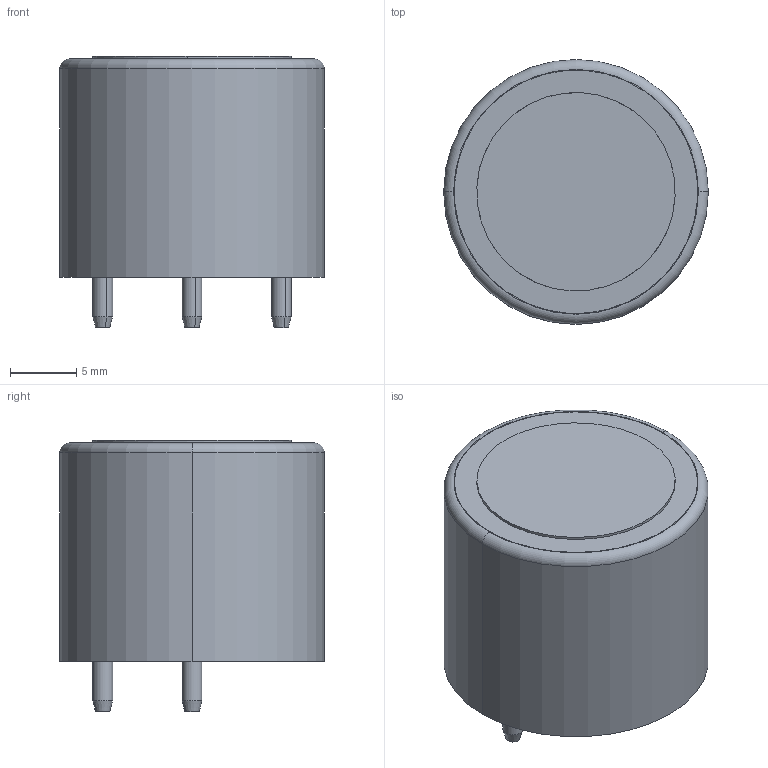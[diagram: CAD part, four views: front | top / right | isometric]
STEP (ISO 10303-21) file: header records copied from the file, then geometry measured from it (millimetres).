
FILE_DESCRIPTION (( 'STEP AP214' ), '1' );
FILE_NAME ('GS+4 Series Toxic Sensor.STEP', '2020-04-02T10:11:35', ( '' ), ( '' ), 'SwSTEP 2.0', 'SolidWorks 2019', '' );
FILE_SCHEMA (( 'AUTOMOTIVE_DESIGN' ));
Length unit declared in the file: millimetre
Products named in the file (5): 40003 - GS+4 Series Connector Pin; 10001 - GS+4 Series Blue Body; GS+4 Series Toxic Sensor; 10100 - GS+4 Series Blank Top (Blue); 40001 - 4 Series Dustcover
Assembly tree (6 placements, depth 2):
  GS+4 Series Toxic Sensor
    10001 - GS+4 Series Blue Body
    40003 - GS+4 Series Connector Pin  x3
    10100 - GS+4 Series Blank Top (Blue)
    40001 - 4 Series Dustcover
Bounding box: 20 x 20 x 20.49 mm (x, y, z)
Volume: 2682 mm3; surface area: 3963.6 mm2
Topology: 6 solids, 6 shells, 109 faces, 230 edges, 146 vertices
Faces by surface type: cylinder 67, plane 28, cone 12, torus 2
Entity records: 2639 total; most frequent: DIRECTION 486, CARTESIAN_POINT 392, ORIENTED_EDGE 364, AXIS2_PLACEMENT_3D 212, EDGE_CURVE 182, CIRCLE 120, VERTEX_POINT 118, EDGE_LOOP 100
